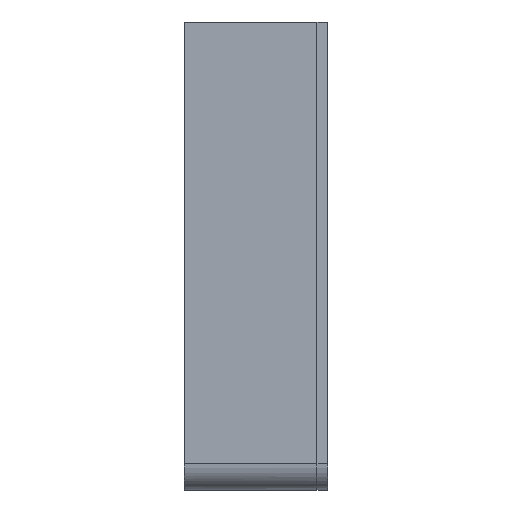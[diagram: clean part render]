
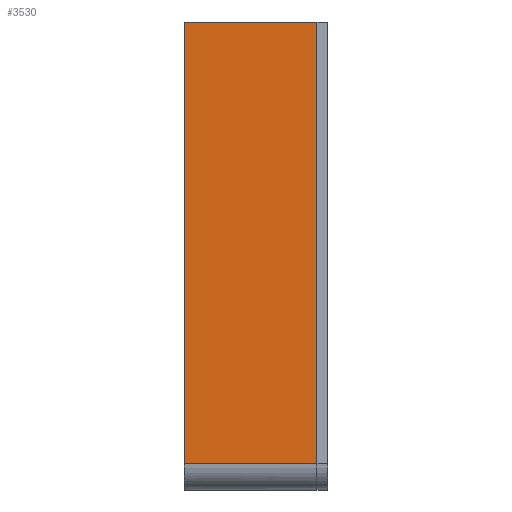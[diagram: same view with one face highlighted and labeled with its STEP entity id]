
A CAD part, left-side view. The second image highlights one B-rep face of the part: STEP entity #3530.
In plain terms, the highlighted planar face has unit normal (-1, 0, 0) as drawn and (0, 0, -1) by its records, which use the part's own axes.
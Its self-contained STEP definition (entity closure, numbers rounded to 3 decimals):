
#2796 = DIRECTION ( 'NONE',  ( 1., 0., 0. ) ) ;
#3530 = ADVANCED_FACE ( 'NONE', ( #26654 ), #39587, .F. ) ;
#6579 = LINE ( 'NONE', #21005, #25163 ) ;
#7086 = AXIS2_PLACEMENT_3D ( 'NONE', #62014, #24195, #2796 ) ;
#9062 = EDGE_CURVE ( 'NONE', #47447, #37819, #6579, .T. ) ;
#10928 = ORIENTED_EDGE ( 'NONE', *, *, #33664, .T. ) ;
#12058 = EDGE_LOOP ( 'NONE', ( #63773, #10928, #68470, #41328 ) ) ;
#18996 = LINE ( 'NONE', #52905, #69707 ) ;
#20456 = CARTESIAN_POINT ( 'NONE',  ( -79.994, 27.005, -47.739 ) ) ;
#21005 = CARTESIAN_POINT ( 'NONE',  ( 4.006, 27.005, -47.739 ) ) ;
#24195 = DIRECTION ( 'NONE',  ( 0., 0., 1. ) ) ;
#24599 = CARTESIAN_POINT ( 'NONE',  ( -79.994, 1.805, -47.739 ) ) ;
#25163 = VECTOR ( 'NONE', #26187, 1000. ) ;
#25189 = DIRECTION ( 'NONE',  ( -1., 0., 0. ) ) ;
#26187 = DIRECTION ( 'NONE',  ( 0., 1., 0. ) ) ;
#26654 = FACE_OUTER_BOUND ( 'NONE', #12058, .T. ) ;
#29240 = VERTEX_POINT ( 'NONE', #24599 ) ;
#32435 = DIRECTION ( 'NONE',  ( 0., -1., 0. ) ) ;
#33664 = EDGE_CURVE ( 'NONE', #47447, #29240, #60847, .T. ) ;
#35105 = EDGE_CURVE ( 'NONE', #37819, #53111, #18996, .T. ) ;
#37819 = VERTEX_POINT ( 'NONE', #40352 ) ;
#39587 = PLANE ( 'NONE',  #7086 ) ;
#40352 = CARTESIAN_POINT ( 'NONE',  ( 4.006, 27.005, -47.739 ) ) ;
#41328 = ORIENTED_EDGE ( 'NONE', *, *, #35105, .F. ) ;
#41422 = VECTOR ( 'NONE', #25189, 1000. ) ;
#41569 = CARTESIAN_POINT ( 'NONE',  ( -79.994, 1.805, -47.739 ) ) ;
#42438 = CARTESIAN_POINT ( 'NONE',  ( 4.006, 1.805, -47.739 ) ) ;
#47447 = VERTEX_POINT ( 'NONE', #42438 ) ;
#51171 = LINE ( 'NONE', #64427, #52914 ) ;
#52905 = CARTESIAN_POINT ( 'NONE',  ( -79.994, 27.005, -47.739 ) ) ;
#52914 = VECTOR ( 'NONE', #32435, 1000. ) ;
#53111 = VERTEX_POINT ( 'NONE', #20456 ) ;
#60276 = EDGE_CURVE ( 'NONE', #53111, #29240, #51171, .T. ) ;
#60847 = LINE ( 'NONE', #41569, #41422 ) ;
#62014 = CARTESIAN_POINT ( 'NONE',  ( -79.994, 27.005, -47.739 ) ) ;
#63773 = ORIENTED_EDGE ( 'NONE', *, *, #9062, .F. ) ;
#64259 = DIRECTION ( 'NONE',  ( -1., 0., 0. ) ) ;
#64427 = CARTESIAN_POINT ( 'NONE',  ( -79.994, 27.005, -47.739 ) ) ;
#68470 = ORIENTED_EDGE ( 'NONE', *, *, #60276, .F. ) ;
#69707 = VECTOR ( 'NONE', #64259, 1000. ) ;
